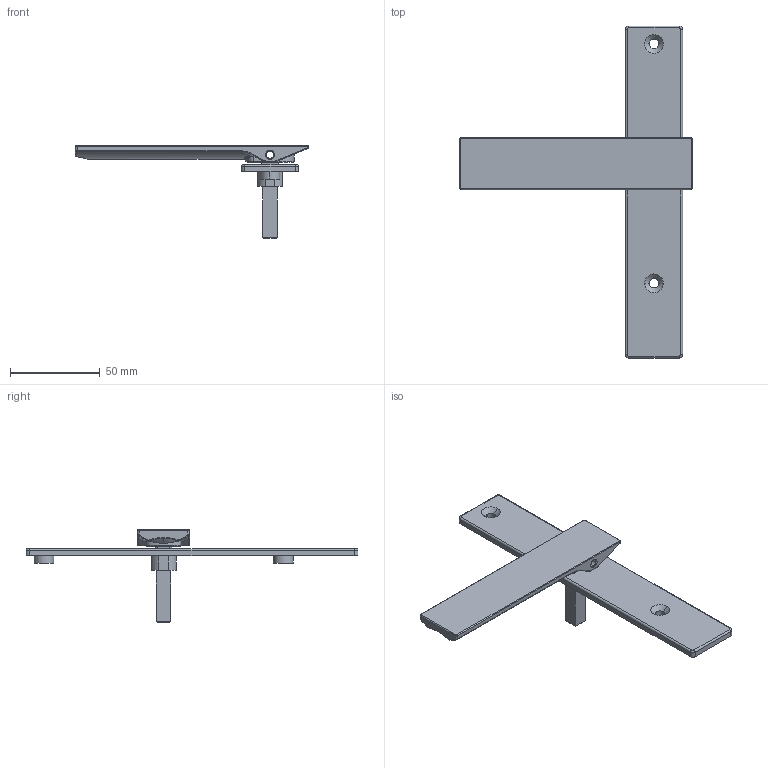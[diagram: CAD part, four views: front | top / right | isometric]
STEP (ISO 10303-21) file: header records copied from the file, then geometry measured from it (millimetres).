
FILE_DESCRIPTION (( 'STEP AP203' ), '1' );
FILE_NAME ('TPL-SS-002-A 22Apr2026.STEP', '2026-04-22T23:05:29', ( '' ), ( '' ), 'SwSTEP 2.0', 'SolidWorks 2023', '' );
FILE_SCHEMA (( 'CONFIG_CONTROL_DESIGN' ));
Length unit declared in the file: millimetre
Products named in the file (6): Copy of Escutcheon plate unkeyed 185mm - simplified^TPGen2 handle non-keyed SS - simplified; Copy of LKC-506 Swing handle SS - simplified^TPGen2 handle non-keyed SS - simplified; Copy of LKC-584 Pivot body zinc - simplified^TPGen2 handle non-keyed SS - simplified; Copy of LKC-585 Rotator body zinc - simplified^TPGen2 handle non-keyed SS - simplified; TPL-SS-002-A 22Apr2026; Copy of LKC-586 Spindle square 8mm with M4 hole - simplified^TPGen2 handle non-keyed SS - simplified_37mm
Assembly tree (5 placements, depth 2):
  TPL-SS-002-A 22Apr2026
    Copy of Escutcheon plate unkeyed 185mm - simplified^TPGen2 handle non-keyed SS - simplified
    Copy of LKC-586 Spindle square 8mm with M4 hole - simplified^TPGen2 handle non-keyed SS - simplified_37mm
    Copy of LKC-584 Pivot body zinc - simplified^TPGen2 handle non-keyed SS - simplified
    Copy of LKC-585 Rotator body zinc - simplified^TPGen2 handle non-keyed SS - simplified
    Copy of LKC-506 Swing handle SS - simplified^TPGen2 handle non-keyed SS - simplified
Bounding box: 130 x 185.15 x 51.55 mm (x, y, z)
Volume: 48873.9 mm3; surface area: 27668.3 mm2
Topology: 5 solids, 5 shells, 285 faces, 678 edges, 408 vertices
Faces by surface type: cylinder 105, plane 78, bspline 44, torus 36, cone 20, sphere 2
Entity records: 9836 total; most frequent: CARTESIAN_POINT 2865, ORIENTED_EDGE 1352, DIRECTION 1333, EDGE_CURVE 676, AXIS2_PLACEMENT_3D 528, VERTEX_POINT 408, EDGE_LOOP 314, ADVANCED_FACE 285
